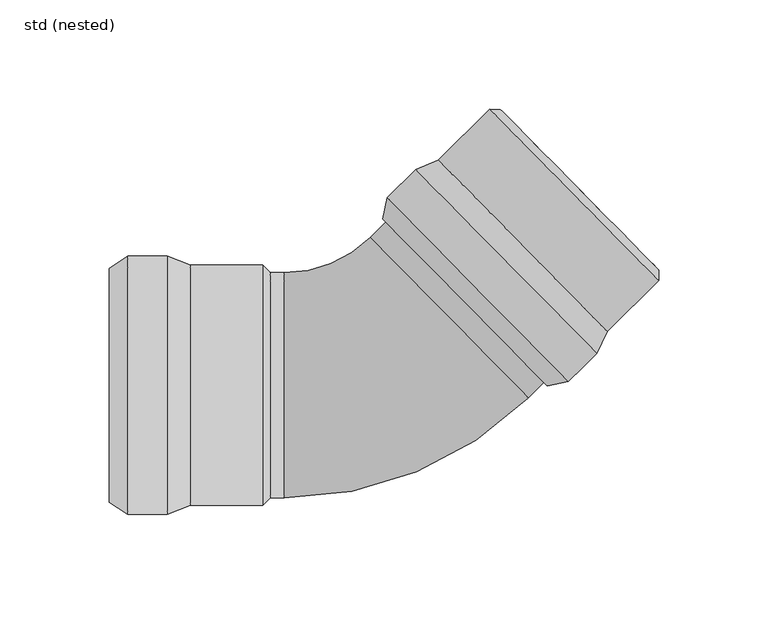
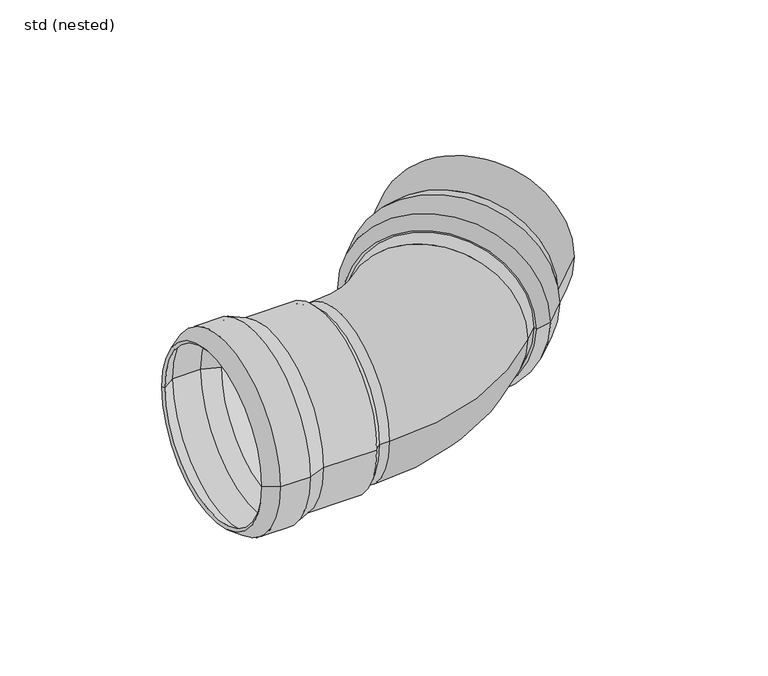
"""IFC4 building model written with IfcOpenShell, lengths in millimetres: pipe fitting geometry, ZZZ_do not use_PIF_ST_UN_GM-X pipe bend_ACO : std (nested)."""

from ifc_helpers import new_model, si_unit, point, frame, origin, place, context, project, spatial, polyline, circle_curve, ellipse_curve, trimmed, source, transform, mapped, element, save
from ifc_brep_helpers import plane_surface, cylinder_surface, revolved_surface, advanced_brep


def std_nested_52e0ee81(model_context):
    return source(origin(), model_context, "Body", "AdvancedBrep", [
        advanced_brep(
        [(15.9421234, 98.5246096, 0.0), (98.7526345, 14.4626131, 0.0), (85.7871401, 1.6901445, 0.0), (2.976629, 85.752141, 0.0), (26.2293523, 103.0437823, 0.0), (103.4255914, 24.6809043, 0.0), (76.0144928, -0.2165187, 0.0), (0.9236056, 76.0091899, 0.0), (49.7382157, 126.2026541, 0.0), (126.9344549, 47.839776, 0.0), (54.687824, 126.1655338, 0.0), (126.9715752, 52.7893843, 0.0), (52.1944597, 123.7092898, 0.0), (124.4782109, 50.3331403, 0.0), (27.3707243, 101.3607103, 0.0), (101.7598275, 25.8473914, 0.0), (125.5308869, 49.2645556, 0.0), (51.1417837, 124.7778745, 0.0), (17.0834954, 96.8415375, 0.0), (97.0868706, 15.6291003, 0.0), (4.8094202, 84.7501944, 0.0), (84.8127953, 3.5377571, 0.0), (2.8806292, 75.5968082, 0.0), (75.6315098, 1.7464698, 0.0)],
        [
            (0, 1, circle_curve(frame((57.347379, 56.4936114, 0.0), z_axis=(-0.7123898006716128, -0.7017839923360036, 0.0), x_axis=(0.7017839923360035, -0.7123898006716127, 0.0)), 59.0)),
            (1, 2),
            (2, 3, circle_curve(frame((44.3818846, 43.7211427, 0.0), z_axis=(0.7123898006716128, 0.7017839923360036, 0.0), x_axis=(0.7017839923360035, -0.7123898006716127, 0.0)), 59.0)),
            (3, 0),
            (1, 0, circle_curve(frame((57.347379, 56.4936114, 0.0), z_axis=(-0.7123898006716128, -0.7017839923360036, 0.0), x_axis=(0.7017839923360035, -0.7123898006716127, 0.0)), 59.0)),
            (3, 2, circle_curve(frame((44.3818846, 43.7211427, 0.0), z_axis=(0.7123898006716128, 0.7017839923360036, 0.0), x_axis=(0.7017839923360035, -0.7123898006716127, 0.0)), 59.0)),
            (4, 5, circle_curve(frame((64.8274719, 63.8623433, 0.0), z_axis=(-0.7123898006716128, -0.7017839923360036, 0.0), x_axis=(0.7017839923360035, -0.7123898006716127, 0.0)), 55.0)),
            (5, 1),
            (0, 4),
            (5, 4, circle_curve(frame((64.8274719, 63.8623433, 0.0), z_axis=(-0.7123898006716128, -0.7017839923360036, 0.0), x_axis=(0.7017839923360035, -0.7123898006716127, 0.0)), 55.0)),
            (2, 6),
            (6, 7, circle_curve(frame((38.4690492, 37.8963356, 0.0), z_axis=(0.7123898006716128, 0.7017839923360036, 0.0), x_axis=(0.7017839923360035, -0.7123898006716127, 0.0)), 53.5)),
            (7, 3),
            (7, 6, circle_curve(frame((38.4690492, 37.8963356, 0.0), z_axis=(0.7123898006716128, 0.7017839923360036, 0.0), x_axis=(0.7017839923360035, -0.7123898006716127, 0.0)), 53.5)),
            (8, 9, circle_curve(frame((88.3363353, 87.021215, 0.0), z_axis=(-0.7123898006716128, -0.7017839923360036, 0.0), x_axis=(0.7017839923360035, -0.7123898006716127, 0.0)), 55.0)),
            (9, 5),
            (4, 8),
            (9, 8, circle_curve(frame((88.3363353, 87.021215, 0.0), z_axis=(-0.7123898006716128, -0.7017839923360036, 0.0), x_axis=(0.7017839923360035, -0.7123898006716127, 0.0)), 55.0)),
            (10, 11, circle_curve(frame((90.8296996, 89.477459, 0.0), z_axis=(-0.7123898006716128, -0.7017839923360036, 0.0), x_axis=(0.7017839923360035, -0.7123898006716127, 0.0)), 51.5)),
            (11, 9),
            (8, 10),
            (11, 10, circle_curve(frame((90.8296996, 89.477459, 0.0), z_axis=(-0.7123898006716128, -0.7017839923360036, 0.0), x_axis=(0.7017839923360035, -0.7123898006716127, 0.0)), 51.5)),
            (12, 13, circle_curve(frame((88.3363353, 87.021215, 0.0), z_axis=(-0.7123898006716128, -0.7017839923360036, 0.0), x_axis=(0.7017839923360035, -0.7123898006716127, 0.0)), 51.5)),
            (13, 11),
            (10, 12),
            (13, 12, circle_curve(frame((88.3363353, 87.021215, 0.0), z_axis=(-0.7123898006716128, -0.7017839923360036, 0.0), x_axis=(0.7017839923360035, -0.7123898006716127, 0.0)), 51.5)),
            (14, 15, circle_curve(frame((64.5652759, 63.6040508, 0.0), z_axis=(-0.7123898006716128, -0.7017839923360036, 0.0), x_axis=(0.7017839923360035, -0.7123898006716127, 0.0)), 53.0)),
            (15, 16),
            (16, 17, circle_curve(frame((88.3363353, 87.021215, 0.0), z_axis=(0.7123898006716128, 0.7017839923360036, 0.0), x_axis=(0.7017839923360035, -0.7123898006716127, 0.0)), 53.0)),
            (17, 14),
            (15, 14, circle_curve(frame((64.5652759, 63.6040508, 0.0), z_axis=(-0.7123898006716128, -0.7017839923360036, 0.0), x_axis=(0.7017839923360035, -0.7123898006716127, 0.0)), 53.0)),
            (17, 16, circle_curve(frame((88.3363353, 87.021215, 0.0), z_axis=(0.7123898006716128, 0.7017839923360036, 0.0), x_axis=(0.7017839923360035, -0.7123898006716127, 0.0)), 53.0)),
            (18, 19, circle_curve(frame((57.085183, 56.2353189, 0.0), z_axis=(-0.7123898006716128, -0.7017839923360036, 0.0), x_axis=(0.7017839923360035, -0.7123898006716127, 0.0)), 57.0)),
            (19, 15),
            (14, 18),
            (19, 18, circle_curve(frame((57.085183, 56.2353189, 0.0), z_axis=(-0.7123898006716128, -0.7017839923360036, 0.0), x_axis=(0.7017839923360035, -0.7123898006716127, 0.0)), 57.0)),
            (20, 21, circle_curve(frame((44.8111078, 44.1439758, 0.0), z_axis=(-0.7123898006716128, -0.7017839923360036, 0.0), x_axis=(0.7017839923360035, -0.7123898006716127, 0.0)), 57.0)),
            (21, 19),
            (18, 20),
            (21, 20, circle_curve(frame((44.8111078, 44.1439758, 0.0), z_axis=(-0.7123898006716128, -0.7017839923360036, 0.0), x_axis=(0.7017839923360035, -0.7123898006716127, 0.0)), 57.0)),
            (22, 23, circle_curve(frame((39.2560695, 38.671639, 0.0), z_axis=(-0.7123898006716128, -0.7017839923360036, 0.0), x_axis=(0.7017839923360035, -0.7123898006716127, 0.0)), 51.8328156)),
            (23, 21),
            (20, 22),
            (23, 22, circle_curve(frame((39.2560695, 38.671639, 0.0), z_axis=(-0.7123898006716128, -0.7017839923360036, 0.0), x_axis=(0.7017839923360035, -0.7123898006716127, 0.0)), 51.8328156)),
            (6, 23),
            (22, 7),
            (16, 13),
            (12, 17),
        ],
        [
            cylinder_surface(frame((40.8595361, 40.2512337, 0.0), z_axis=(0.7123898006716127, 0.7017839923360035, 0.0), x_axis=(0.7017839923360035, -0.7123898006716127, 0.0)), 59.0),
            revolved_surface(polyline([(98.7526345, 14.4626131, 0.0), (103.4255914, 24.6809043, 0.0)]), (40.8595361, 40.2512337, 0.0), (0.7123898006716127, 0.7017839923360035, 0.0)),
            revolved_surface(polyline([(76.0144928, -0.2165187, 0.0), (85.7871401, 1.6901445, 0.0)]), (40.8595361, 40.2512337, 0.0), (0.7123898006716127, 0.7017839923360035, 0.0)),
            cylinder_surface(frame((40.8595361, 40.2512337, 0.0), z_axis=(0.7123898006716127, 0.7017839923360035, 0.0), x_axis=(0.7017839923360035, -0.7123898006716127, 0.0)), 55.0),
            revolved_surface(polyline([(126.9344549, 47.839776, 0.0), (126.9715752, 52.7893843, 0.0)]), (40.8595361, 40.2512337, 0.0), (0.7123898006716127, 0.7017839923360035, 0.0)),
            revolved_surface(polyline([(126.97157523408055, 52.789384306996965, 0.0), (124.47821088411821, 50.33314028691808, 0.0)]), (40.8595361, 40.2512337, 0.0), (0.7123898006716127, 0.7017839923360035, 0.0)),
            revolved_surface(polyline([(125.53088690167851, 49.26455561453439, 0.0), (101.75982749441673, 25.847391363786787, 0.0)]), (40.8595361, 40.2512337, 0.0), (0.7123898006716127, 0.7017839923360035, 0.0)),
            revolved_surface(polyline([(101.7598275, 25.8473914, 0.0), (97.0868706, 15.6291003, 0.0)]), (40.8595361, 40.2512337, 0.0), (0.7123898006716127, 0.7017839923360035, 0.0)),
            revolved_surface(polyline([(97.08687060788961, 15.629100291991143, 0.0), (84.81279530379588, 3.5377570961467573, 0.0)]), (40.8595361, 40.2512337, 0.0), (0.7123898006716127, 0.7017839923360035, 0.0)),
            revolved_surface(polyline([(84.8127953, 3.5377571, 0.0), (75.6315098, 1.7464698, 0.0)]), (40.8595361, 40.2512337, 0.0), (0.7123898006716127, 0.7017839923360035, 0.0)),
            revolved_surface(polyline([(75.6315098, 1.7464698, 0.0), (76.0144928, -0.2165187, 0.0)]), (40.8595361, 40.2512337, 0.0), (0.7123898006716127, 0.7017839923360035, 0.0)),
            plane_surface(frame((88.3363353, 87.021215, 0.0), z_axis=(-0.7123898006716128, -0.7017839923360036, 0.0), x_axis=(0.7017839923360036, -0.7123898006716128, 0.0))),
        ],
        [
            (0, [[1, 2, 3, 4]]),
            (0, [[5, -4, 6, -2]]),
            (1, [[7, 8, -1, 9]]),
            (1, [[10, -9, -5, -8]]),
            (2, [[-3, 11, 12, 13]]),
            (2, [[-6, -13, 14, -11]]),
            (3, [[15, 16, -7, 17]]),
            (3, [[18, -17, -10, -16]]),
            (4, [[19, 20, -15, 21]]),
            (4, [[22, -21, -18, -20]]),
            (5, [[23, 24, -19, 25]]),
            (5, [[26, -25, -22, -24]]),
            (6, [[27, 28, 29, 30]]),
            (6, [[31, -30, 32, -28]]),
            (7, [[33, 34, -27, 35]]),
            (7, [[36, -35, -31, -34]]),
            (8, [[37, 38, -33, 39]]),
            (8, [[40, -39, -36, -38]]),
            (9, [[41, 42, -37, 43]]),
            (9, [[44, -43, -40, -42]]),
            (10, [[-12, 45, -41, 46]]),
            (10, [[-14, -46, -44, -45]]),
            (11, [[-29, 47, -23, 48]]),
            (11, [[-32, -48, -26, -47]]),
        ],
    ),
        advanced_brep(
        [(-97.5, 59.0, 0.0), (-97.5, -59.0, 0.0), (-115.7, -59.0, 0.0), (-115.7, 59.0, 0.0), (-87.0, 55.0, 0.0), (-87.0, -55.0, 0.0), (-124.0, -53.5, 0.0), (-124.0, 53.5, 0.0), (-54.0, 55.0, 0.0), (-54.0, -55.0, 0.0), (-50.5, 51.5, 0.0), (-50.5, -51.5, 0.0), (-54.0, 51.5, 0.0), (-54.0, -51.5, 0.0), (-87.3680513, 53.0, 0.0), (-87.3680513, -53.0, 0.0), (-54.0, -53.0, 0.0), (-54.0, 53.0, 0.0), (-97.8680513, 57.0, 0.0), (-97.8680513, -57.0, 0.0), (-115.0974883, 57.0, 0.0), (-115.0974883, -57.0, 0.0), (-122.8952393, 51.8328156, 0.0), (-122.8952393, -51.8328156, 0.0)],
        [
            (0, 1, circle_curve(frame((-97.5, 0.0, 0.0), z_axis=(-1.0, 0.0, 0.0), x_axis=(0.0, -1.0, 0.0)), 59.0)),
            (1, 2),
            (2, 3, circle_curve(frame((-115.7, 0.0, 0.0), z_axis=(1.0, 0.0, 0.0), x_axis=(0.0, -1.0, 0.0)), 59.0)),
            (3, 0),
            (1, 0, circle_curve(frame((-97.5, 0.0, 0.0), z_axis=(-1.0, 0.0, 0.0), x_axis=(0.0, -1.0, 0.0)), 59.0)),
            (3, 2, circle_curve(frame((-115.7, 0.0, 0.0), z_axis=(1.0, 0.0, 0.0), x_axis=(0.0, -1.0, 0.0)), 59.0)),
            (4, 5, circle_curve(frame((-87.0, 0.0, 0.0), z_axis=(-1.0, 0.0, 0.0), x_axis=(0.0, -1.0, 0.0)), 55.0)),
            (5, 1),
            (0, 4),
            (5, 4, circle_curve(frame((-87.0, 0.0, 0.0), z_axis=(-1.0, 0.0, 0.0), x_axis=(0.0, -1.0, 0.0)), 55.0)),
            (2, 6),
            (6, 7, circle_curve(frame((-124.0, 0.0, 0.0), z_axis=(1.0, 0.0, 0.0), x_axis=(0.0, -1.0, 0.0)), 53.5)),
            (7, 3),
            (7, 6, circle_curve(frame((-124.0, 0.0, 0.0), z_axis=(1.0, 0.0, 0.0), x_axis=(0.0, -1.0, 0.0)), 53.5)),
            (8, 9, circle_curve(frame((-54.0, 0.0, 0.0), z_axis=(-1.0, 0.0, 0.0), x_axis=(0.0, -1.0, 0.0)), 55.0)),
            (9, 5),
            (4, 8),
            (9, 8, circle_curve(frame((-54.0, 0.0, 0.0), z_axis=(-1.0, 0.0, 0.0), x_axis=(0.0, -1.0, 0.0)), 55.0)),
            (10, 11, circle_curve(frame((-50.5, 0.0, 0.0), z_axis=(-1.0, 0.0, 0.0), x_axis=(0.0, -1.0, 0.0)), 51.5)),
            (11, 9),
            (8, 10),
            (11, 10, circle_curve(frame((-50.5, 0.0, 0.0), z_axis=(-1.0, 0.0, 0.0), x_axis=(0.0, -1.0, 0.0)), 51.5)),
            (12, 13, circle_curve(frame((-54.0, 0.0, 0.0), z_axis=(-1.0, 0.0, 0.0), x_axis=(0.0, -1.0, 0.0)), 51.5)),
            (13, 11),
            (10, 12),
            (13, 12, circle_curve(frame((-54.0, 0.0, 0.0), z_axis=(-1.0, 0.0, 0.0), x_axis=(0.0, -1.0, 0.0)), 51.5)),
            (14, 15, circle_curve(frame((-87.3680513, 0.0, 0.0), z_axis=(-1.0, 0.0, 0.0), x_axis=(0.0, -1.0, 0.0)), 53.0)),
            (15, 16),
            (16, 17, circle_curve(frame((-54.0, 0.0, 0.0), z_axis=(1.0, 0.0, 0.0), x_axis=(0.0, -1.0, 0.0)), 53.0)),
            (17, 14),
            (15, 14, circle_curve(frame((-87.3680513, 0.0, 0.0), z_axis=(-1.0, 0.0, 0.0), x_axis=(0.0, -1.0, 0.0)), 53.0)),
            (17, 16, circle_curve(frame((-54.0, 0.0, 0.0), z_axis=(1.0, 0.0, 0.0), x_axis=(0.0, -1.0, 0.0)), 53.0)),
            (18, 19, circle_curve(frame((-97.8680513, 0.0, 0.0), z_axis=(-1.0, 0.0, 0.0), x_axis=(0.0, -1.0, 0.0)), 57.0)),
            (19, 15),
            (14, 18),
            (19, 18, circle_curve(frame((-97.8680513, 0.0, 0.0), z_axis=(-1.0, 0.0, 0.0), x_axis=(0.0, -1.0, 0.0)), 57.0)),
            (20, 21, circle_curve(frame((-115.0974883, 0.0, 0.0), z_axis=(-1.0, 0.0, 0.0), x_axis=(0.0, -1.0, 0.0)), 57.0)),
            (21, 19),
            (18, 20),
            (21, 20, circle_curve(frame((-115.0974883, 0.0, 0.0), z_axis=(-1.0, 0.0, 0.0), x_axis=(0.0, -1.0, 0.0)), 57.0)),
            (22, 23, circle_curve(frame((-122.8952393, 0.0, 0.0), z_axis=(-1.0, 0.0, 0.0), x_axis=(0.0, -1.0, 0.0)), 51.8328156)),
            (23, 21),
            (20, 22),
            (23, 22, circle_curve(frame((-122.8952393, 0.0, 0.0), z_axis=(-1.0, 0.0, 0.0), x_axis=(0.0, -1.0, 0.0)), 51.8328156)),
            (6, 23),
            (22, 7),
            (16, 13),
            (12, 17),
        ],
        [
            cylinder_surface(frame((-120.6444117, 0.0, 0.0), z_axis=(1.0, 0.0, 0.0), x_axis=(0.0, -1.0, 0.0)), 59.0),
            revolved_surface(polyline([(-97.5, -59.0, 0.0), (-87.0, -55.0, 0.0)]), (-120.6444117, 0.0, 0.0), (1.0, 0.0, 0.0)),
            revolved_surface(polyline([(-124.0, -53.5, 0.0), (-115.7, -59.0, 0.0)]), (-120.6444117, 0.0, 0.0), (1.0, 0.0, 0.0)),
            cylinder_surface(frame((-120.6444117, 0.0, 0.0), z_axis=(1.0, 0.0, 0.0), x_axis=(0.0, -1.0, 0.0)), 55.0),
            revolved_surface(polyline([(-54.0, -55.0, 0.0), (-50.5, -51.5, 0.0)]), (-120.6444117, 0.0, 0.0), (1.0, 0.0, 0.0)),
            revolved_surface(polyline([(-50.5, -51.5, 0.0), (-54.0, -51.5, 0.0)]), (-120.6444117, 0.0, 0.0), (1.0, 0.0, 0.0)),
            revolved_surface(polyline([(-54.0, -53.0, 0.0), (-87.3680513, -53.0, 0.0)]), (-120.6444117, 0.0, 0.0), (1.0, 0.0, 0.0)),
            revolved_surface(polyline([(-87.3680513, -53.0, 0.0), (-97.8680513, -57.0, 0.0)]), (-120.6444117, 0.0, 0.0), (1.0, 0.0, 0.0)),
            revolved_surface(polyline([(-97.8680513, -57.0, 0.0), (-115.0974883, -57.0, 0.0)]), (-120.6444117, 0.0, 0.0), (1.0, 0.0, 0.0)),
            revolved_surface(polyline([(-115.0974883, -57.0, 0.0), (-122.8952393, -51.8328156, 0.0)]), (-120.6444117, 0.0, 0.0), (1.0, 0.0, 0.0)),
            revolved_surface(polyline([(-122.8952393, -51.8328156, 0.0), (-124.0, -53.5, 0.0)]), (-120.6444117, 0.0, 0.0), (1.0, 0.0, 0.0)),
            plane_surface(frame((-54.0, 0.0, 0.0), z_axis=(-1.0, 0.0, 0.0), x_axis=(0.0, -1.0, 0.0))),
        ],
        [
            (0, [[1, 2, 3, 4]]),
            (0, [[5, -4, 6, -2]]),
            (1, [[7, 8, -1, 9]]),
            (1, [[10, -9, -5, -8]]),
            (2, [[-3, 11, 12, 13]]),
            (2, [[-6, -13, 14, -11]]),
            (3, [[15, 16, -7, 17]]),
            (3, [[18, -17, -10, -16]]),
            (4, [[19, 20, -15, 21]]),
            (4, [[22, -21, -18, -20]]),
            (5, [[23, 24, -19, 25]]),
            (5, [[26, -25, -22, -24]]),
            (6, [[27, 28, 29, 30]]),
            (6, [[31, -30, 32, -28]]),
            (7, [[33, 34, -27, 35]]),
            (7, [[36, -35, -31, -34]]),
            (8, [[37, 38, -33, 39]]),
            (8, [[40, -39, -36, -38]]),
            (9, [[41, 42, -37, 43]]),
            (9, [[44, -43, -40, -42]]),
            (10, [[-12, 45, -41, 46]]),
            (10, [[-14, -46, -44, -45]]),
            (11, [[-29, 47, -23, 48]]),
            (11, [[-32, -48, -26, -47]]),
        ],
    ),
        advanced_brep(
        [(-4.7967244, 67.5665704, 0.0), (-44.0, 51.5, 0.0), (-44.0, -51.5, 0.0), (67.4870268, -5.8095791, 0.0), (31.3451512, 30.8784957, 51.5), (31.3451512, 30.8784957, -51.5), (-54.0, -51.5, 0.0), (-54.0, 51.5, 0.0), (124.4782109, 50.3331403, 0.0), (52.1944597, 123.7092898, 0.0)],
        [
            (0, 1, circle_curve(frame((-44.0, 107.362311, 0.0), z_axis=(0.0, 0.0, -1.0), x_axis=(0.0, -1.0, 0.0)), 55.862311)),
            (1, 2, circle_curve(frame((-44.0, 0.0, 0.0), z_axis=(1.0, 0.0, 0.0), x_axis=(0.0, 1.0, 0.0)), 51.5)),
            (2, 3, circle_curve(frame((-44.0, 107.362311, 0.0), z_axis=(0.0, 0.0, 1.0), x_axis=(0.0, -1.0, 0.0)), 158.862311)),
            (3, 4, circle_curve(frame((31.3451512, 30.8784957, 0.0), z_axis=(-0.7123898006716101, -0.7017839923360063, 0.0), x_axis=(-0.7017839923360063, 0.7123898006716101, 0.0)), 51.5)),
            (4, 0, circle_curve(frame((31.3451512, 30.8784957, 0.0), z_axis=(-0.7123898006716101, -0.7017839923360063, 0.0), x_axis=(-0.7017839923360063, 0.7123898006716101, 0.0)), 51.5)),
            (0, 5, circle_curve(frame((31.3451512, 30.8784957, 0.0), z_axis=(-0.7123898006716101, -0.7017839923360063, 0.0), x_axis=(-0.7017839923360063, 0.7123898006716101, 0.0)), 51.5)),
            (5, 3, circle_curve(frame((31.3451512, 30.8784957, 0.0), z_axis=(-0.7123898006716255, -0.7017839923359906, 0.0), x_axis=(-0.7017839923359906, 0.7123898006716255, 0.0)), 51.5)),
            (2, 1, circle_curve(frame((-44.0, 0.0, 0.0), z_axis=(1.0, 0.0, 0.0), x_axis=(0.0, 1.0, 0.0)), 51.5)),
            (6, 7, circle_curve(frame((-54.0, 0.0, 0.0), z_axis=(-1.0, 0.0, 0.0), x_axis=(0.0, 1.0, 0.0)), 51.5)),
            (7, 6, circle_curve(frame((-54.0, 0.0, 0.0), z_axis=(-1.0, 0.0, 0.0), x_axis=(0.0, 1.0, 0.0)), 51.5)),
            (7, 1),
            (2, 6),
            (8, 9, circle_curve(frame((88.3363353, 87.021215, 0.0), z_axis=(0.7123898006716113, 0.701783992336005, 0.0), x_axis=(-0.701783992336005, 0.7123898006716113, 0.0)), 51.5)),
            (9, 8, circle_curve(frame((88.3363353, 87.021215, 0.0), z_axis=(0.7123898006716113, 0.701783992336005, 0.0), x_axis=(-0.701783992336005, 0.7123898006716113, 0.0)), 51.5)),
            (9, 0),
            (3, 8),
        ],
        [
            revolved_surface(trimmed(ellipse_curve(frame((-44.0, 0.0, 0.0), z_axis=(-1.0, 0.0, 0.0), x_axis=(0.0, 1.0, 0.0)), 51.5, 51.5), [point((-44.0, -51.5, 0.0))], [point((-44.0, 51.5, 0.0))], True, "CARTESIAN"), (-44.0, 107.362311, 0.0), (0.0, 0.0, 1.0)),
            revolved_surface(trimmed(ellipse_curve(frame((-44.0, 0.0, 0.0), z_axis=(-1.0, 0.0, 0.0), x_axis=(0.0, 1.0, 0.0)), 51.5, 51.5), [point((-44.0, 51.5, 0.0))], [point((-44.0, -51.5, 0.0))], True, "CARTESIAN"), (-44.0, 107.362311, 0.0), (0.0, 0.0, 1.0)),
            plane_surface(frame((-54.0, 51.5, 0.0), z_axis=(-1.0, 0.0, 0.0), x_axis=(0.0, 0.0, -1.0))),
            cylinder_surface(frame((-54.0, 0.0, 0.0), z_axis=(1.0, 0.0, 0.0), x_axis=(0.0, 1.0, 0.0)), 51.5),
            plane_surface(frame((88.3363353, 87.021215, 0.0), z_axis=(0.7123898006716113, 0.701783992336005, 0.0), x_axis=(0.0, 0.0, 1.0))),
            cylinder_surface(frame((31.3451512, 30.8784957, 0.0), z_axis=(-0.7123898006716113, -0.701783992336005, 0.0), x_axis=(-0.701783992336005, 0.7123898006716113, 0.0)), 51.5),
        ],
        [
            (0, [[1, 2, 3, 4, 5]]),
            (1, [[-1, 6, 7, -3, 8]]),
            (2, [[9, 10]]),
            (3, [[-10, 11, -8, 12]]),
            (3, [[-9, -12, -2, -11]]),
            (4, [[13, 14]]),
            (5, [[-14, 15, -5, -4, 16]]),
            (5, [[-13, -16, -7, -6, -15]]),
        ],
    ),
    ])


if __name__ == "__main__":
    model = new_model("IFC4")
    model_context = context("Model", 3, world=origin())
    ifc_project = project(units=[si_unit("LENGTHUNIT", "METRE", prefix="MILLI")], contexts=[model_context])
    site = spatial("IfcSite", under=ifc_project)
    building = spatial("IfcBuilding", under=site)
    placement = place(None, origin())
    std_nested_shape = std_nested_52e0ee81(model_context)
    element("IfcPipeFitting", 1, ObjectType="ZZZ_do not use_PIF_ST_UN_GM-X pipe bend_ACO : std (nested)", at=placement, inside=building, context=model_context, shape_type="MappedRepresentation", body=[
        mapped(std_nested_shape, transform((0.0, 0.0, 0.0), x_axis=(1.0, 0.0, 0.0), y_axis=(0.0, 1.0, 0.0), z_axis=(0.0, 0.0, 1.0))),
    ])
    save(model, "model.ifc")
